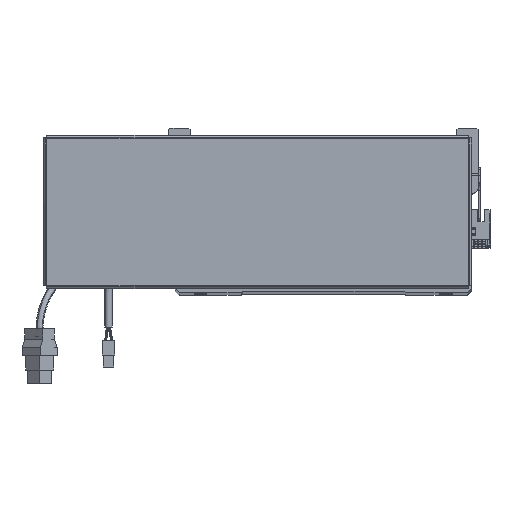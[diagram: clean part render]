
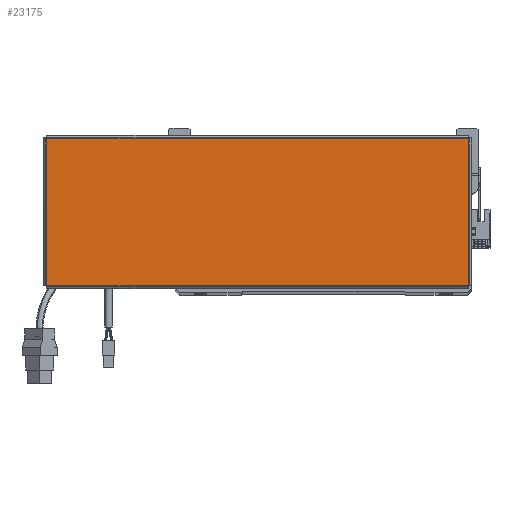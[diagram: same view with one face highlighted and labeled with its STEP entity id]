
A CAD part, top view. The second image highlights one B-rep face of the part: STEP entity #23175.
In plain terms, the highlighted planar face has unit normal (0, 0, 1).
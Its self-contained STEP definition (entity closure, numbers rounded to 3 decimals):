
#781 = DIRECTION ( 'NONE',  ( 0., 1., 0. ) ) ;
#949 = EDGE_CURVE ( 'NONE', #29388, #1881, #9649, .T. ) ;
#1641 = CARTESIAN_POINT ( 'NONE',  ( -156.543, -54.763, 0. ) ) ;
#1881 = VERTEX_POINT ( 'NONE', #43176 ) ;
#2519 = VERTEX_POINT ( 'NONE', #56770 ) ;
#5777 = PLANE ( 'NONE',  #68944 ) ;
#8401 = CARTESIAN_POINT ( 'NONE',  ( 156.513, -54.763, 0. ) ) ;
#9649 = LINE ( 'NONE', #33247, #25790 ) ;
#13753 = VECTOR ( 'NONE', #53372, 1000. ) ;
#14103 = VECTOR ( 'NONE', #40486, 1000. ) ;
#15393 = ORIENTED_EDGE ( 'NONE', *, *, #59149, .T. ) ;
#16206 = DIRECTION ( 'NONE',  ( 0., 0., 1. ) ) ;
#19117 = EDGE_CURVE ( 'NONE', #1881, #2519, #59396, .T. ) ;
#22459 = FACE_OUTER_BOUND ( 'NONE', #68088, .T. ) ;
#23175 = ADVANCED_FACE ( 'NONE', ( #22459 ), #5777, .T. ) ;
#25790 = VECTOR ( 'NONE', #781, 1000. ) ;
#27150 = DIRECTION ( 'NONE',  ( 1., 0., 0. ) ) ;
#28042 = ORIENTED_EDGE ( 'NONE', *, *, #19117, .T. ) ;
#29187 = ORIENTED_EDGE ( 'NONE', *, *, #949, .T. ) ;
#29388 = VERTEX_POINT ( 'NONE', #8401 ) ;
#32477 = LINE ( 'NONE', #42063, #13753 ) ;
#33247 = CARTESIAN_POINT ( 'NONE',  ( 156.513, -54.793, 0. ) ) ;
#34455 = LINE ( 'NONE', #1641, #14103 ) ;
#35788 = VECTOR ( 'NONE', #61984, 1000. ) ;
#40486 = DIRECTION ( 'NONE',  ( 1., 0., 0. ) ) ;
#42063 = CARTESIAN_POINT ( 'NONE',  ( -156.513, 54.793, 0. ) ) ;
#43176 = CARTESIAN_POINT ( 'NONE',  ( 156.513, 54.763, 0. ) ) ;
#44699 = CARTESIAN_POINT ( 'NONE',  ( -156.513, -54.763, 0. ) ) ;
#46494 = ORIENTED_EDGE ( 'NONE', *, *, #67788, .T. ) ;
#53372 = DIRECTION ( 'NONE',  ( 0., -1., 0. ) ) ;
#56552 = CARTESIAN_POINT ( 'NONE',  ( 156.543, 54.763, 0. ) ) ;
#56770 = CARTESIAN_POINT ( 'NONE',  ( -156.513, 54.763, 0. ) ) ;
#59149 = EDGE_CURVE ( 'NONE', #2519, #67938, #32477, .T. ) ;
#59396 = LINE ( 'NONE', #56552, #35788 ) ;
#59490 = CARTESIAN_POINT ( 'NONE',  ( 0., 0., 0. ) ) ;
#61984 = DIRECTION ( 'NONE',  ( -1., 0., 0. ) ) ;
#67788 = EDGE_CURVE ( 'NONE', #67938, #29388, #34455, .T. ) ;
#67938 = VERTEX_POINT ( 'NONE', #44699 ) ;
#68088 = EDGE_LOOP ( 'NONE', ( #46494, #29187, #28042, #15393 ) ) ;
#68944 = AXIS2_PLACEMENT_3D ( 'NONE', #59490, #16206, #27150 ) ;
